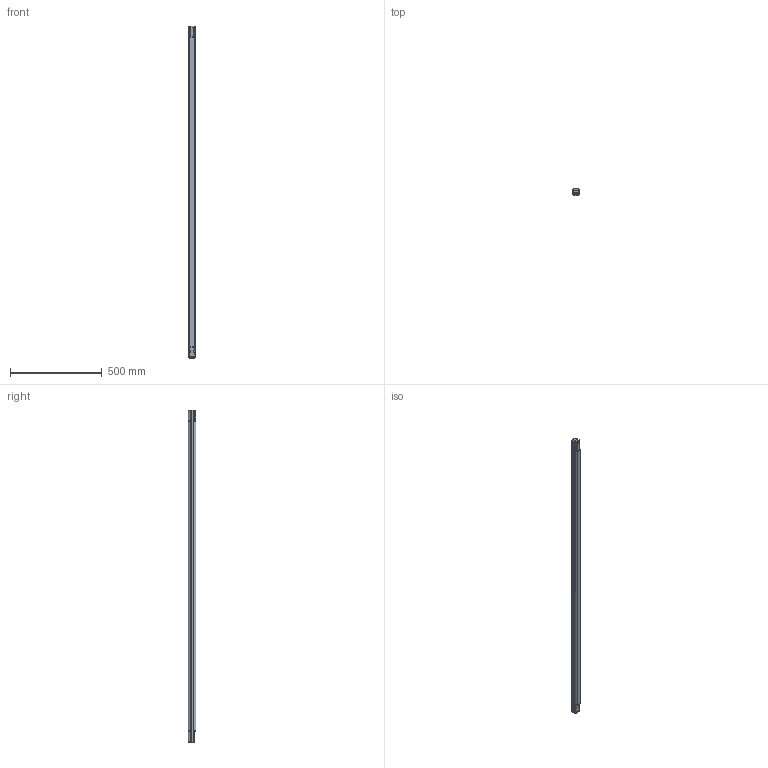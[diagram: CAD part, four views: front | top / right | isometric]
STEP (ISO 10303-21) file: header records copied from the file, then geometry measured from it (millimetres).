
FILE_DESCRIPTION(/* description */ (''),/* implementation_level */ '2;1');
FILE_NAME(/* name */ 'SH4 - 1800 mm DSD Barriera senza Smart Plug.stp',/* time_stamp */ '2022-12-02T18:37:14+01:00',/* author */ (''),/* organization */ (''),/* preprocessor_version */ 'ST-DEVELOPER v16.701',/* originating_system */ 'SIEMENS PLM Software NX 1946',/* authorisation */ '');
FILE_SCHEMA (('AP203_CONFIGURATION_CONTROLLED_3D_DESIGN_OF_MECHANICAL_PARTS_AND_ASSEMBLIES_MIM_LF { 1 0 10303 403 2 1 2}'));
Length unit declared in the file: millimetre
Products named in the file (1): MRos63D4F2E59x3d
Bounding box: 35.08 x 40 x 1809 mm (x, y, z)
Volume: 2132104.9 mm3; surface area: 413068.3 mm2
Topology: 6 solids, 11 shells, 891 faces, 2428 edges, 1549 vertices
Faces by surface type: plane 363, cylinder 315, bspline 92, cone 55, extrusion 24, sphere 22, torus 20
Full cylindrical faces by diameter (mm): 2.013 x4, 2.2 x4, 3 x4, 4.37 x4, 5 x8
Entity records: 34734 total; most frequent: CARTESIAN_POINT 13104, ORIENTED_EDGE 4576, DIRECTION 3865, EDGE_CURVE 2288, VERTEX_POINT 1515, AXIS2_PLACEMENT_3D 1345, VECTOR 1175, LINE 1151
